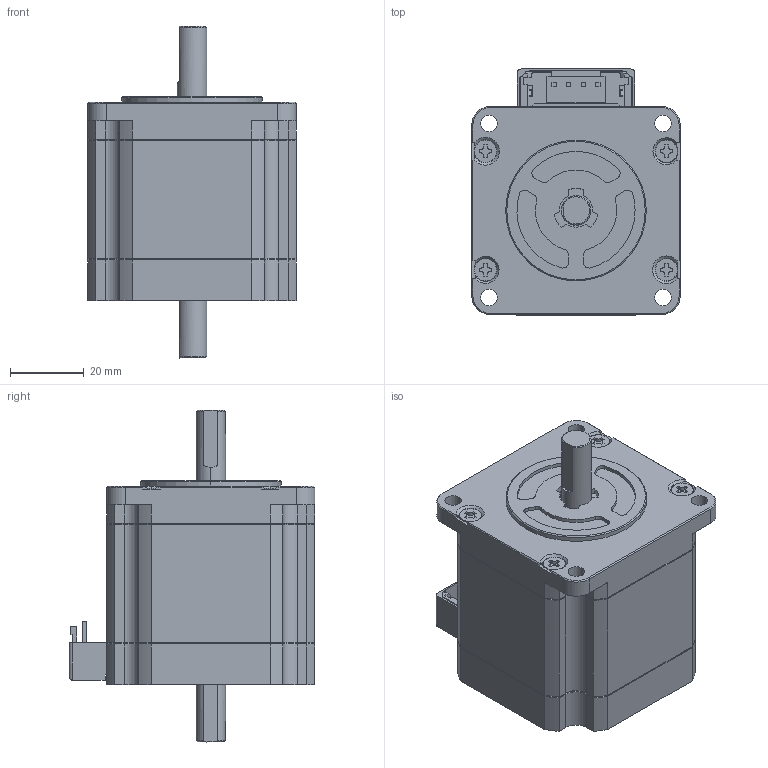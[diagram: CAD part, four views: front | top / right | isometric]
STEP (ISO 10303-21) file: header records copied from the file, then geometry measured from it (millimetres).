
FILE_DESCRIPTION (( 'STEP AP203' ), '1' );
FILE_NAME ('SM2562C10B11.STEP', '2021-05-07T07:20:11', ( '' ), ( '' ), 'SwSTEP 2.0', 'SolidWorks 2019', '' );
FILE_SCHEMA (( 'CONFIG_CONTROL_DESIGN' ));
Length unit declared in the file: millimetre
Products named in the file (11): Copy of OUTPUT SHAFT^01124139; Copy of STATOR^01124139; Copy of SCREW^01124139; Copy of INSULATOR_REAR^01124139_コネクタタイプ（10.1L）; Copy of FRONT COVER^01124139; SM2562C10B11; Copy of COUNTER SHAFT^01124139; Copy of REAR COVER^01124139; Copy of TERMINAL^01124139; Copy of SUBSTRATE^Copy of TERMINAL_01124139; Copy of CONNECTOR^Copy of TERMINAL_01124139
Assembly tree (13 placements, depth 3):
  SM2562C10B11
    Copy of FRONT COVER^01124139
    Copy of STATOR^01124139
    Copy of INSULATOR_REAR^01124139_コネクタタイプ（10.1L）
    Copy of TERMINAL^01124139
      Copy of SUBSTRATE^Copy of TERMINAL_01124139
      Copy of CONNECTOR^Copy of TERMINAL_01124139
    Copy of REAR COVER^01124139
    Copy of COUNTER SHAFT^01124139
    Copy of OUTPUT SHAFT^01124139
    Copy of SCREW^01124139  x4
Bounding box: 56.4 x 66.6 x 89.9 mm (x, y, z)
Volume: 174297.1 mm3; surface area: 40598.4 mm2
Topology: 12 solids, 12 shells, 606 faces, 1576 edges, 1016 vertices
Faces by surface type: plane 385, cylinder 158, cone 63
Entity records: 17685 total; most frequent: CARTESIAN_POINT 3014, ORIENTED_EDGE 2804, DIRECTION 2796, EDGE_CURVE 1402, VECTOR 1012, LINE 1012, VERTEX_POINT 902, AXIS2_PLACEMENT_3D 892
